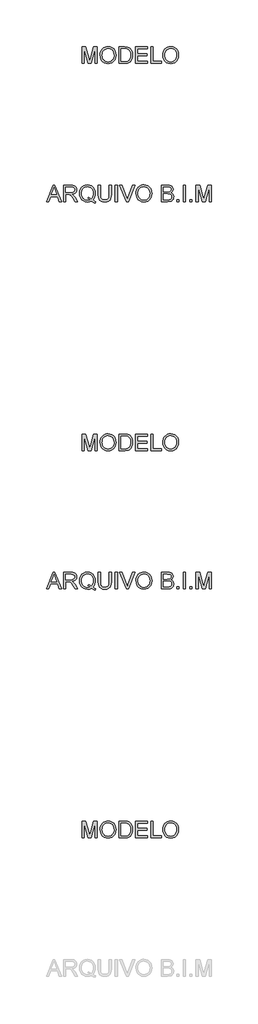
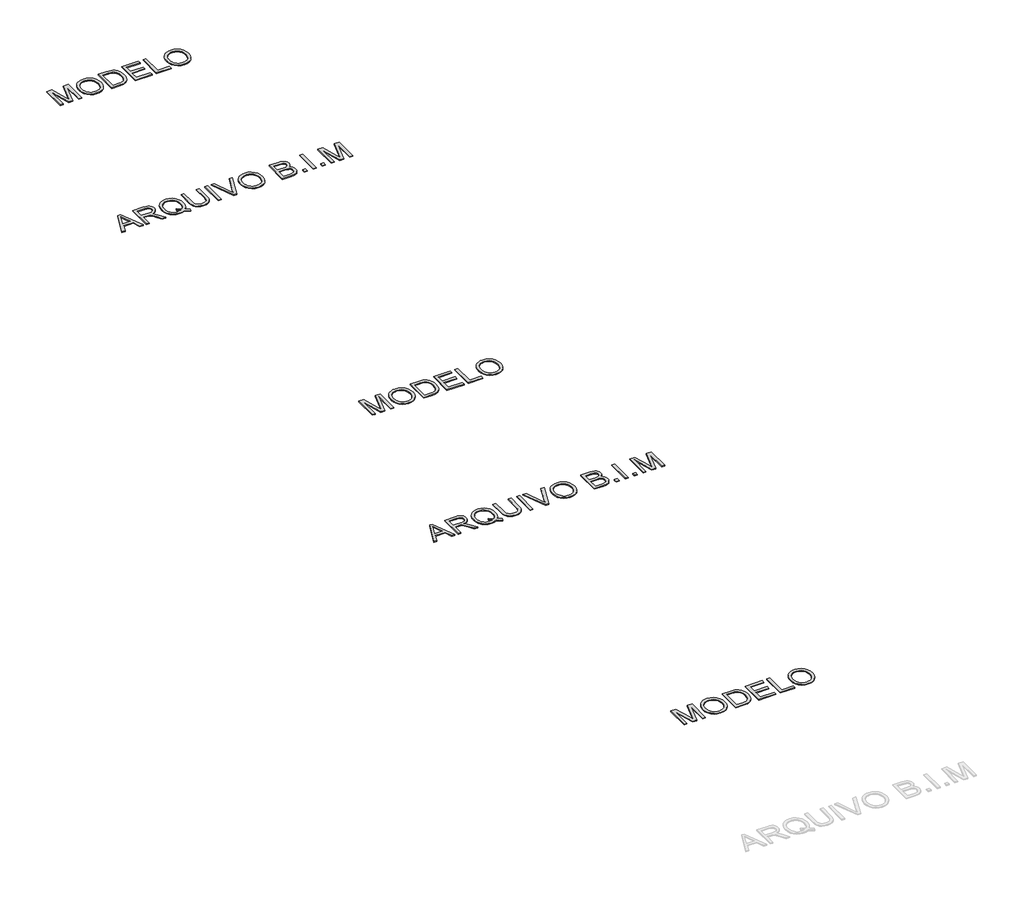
# One storey, part 3 of 8: 5 proxies.
"""IFC4 building model written with IfcOpenShell, lengths in millimetres."""

from ifc_helpers import new_model, si_unit, origin, origin_with_axes, place, context, project, spatial, polyline, outline, extrude, element, save

model = new_model("IFC4")

# Units and contexts
model_context = context("Model", 3, world=origin())
ifc_project = project(units=[si_unit("LENGTHUNIT", "METRE", prefix="MILLI")], contexts=[model_context])

# Site, building, storey
site = spatial("IfcSite", under=ifc_project)
building = spatial("IfcBuilding", under=site)
storey = spatial("IfcBuildingStorey", under=building, Name="Marelli - Linha HABITAT - Planta Baixa", Elevation=0.0)

# Proxies
placement = place(None, origin())
element("IfcBuildingElementProxy", 1, Name="300mm Arial", ObjectType="300mm Arial", at=placement, inside=storey, context=model_context, shape_type="SweptSolid", body=[
    extrude(outline(polyline([(29390.580402, -52280.5663201), (29510.8778144, -51979.1973896), (29542.9571244, -51979.1973896), (29663.2545368, -52280.5663201), (29623.449705, -52280.5663201), (29588.9423738, -52186.3885293), (29464.8189886, -52186.3885293), (29430.3852339, -52280.5663201), (29390.580402, -52280.5663201)]), holes=[polyline([(29478.6513517, -52148.717413), (29575.1835872, -52148.717413), (29548.0338959, -52074.6259792), (29526.9174694, -52016.8685059), (29508.1554877, -52068.1512561), (29478.6513517, -52148.717413)])]), origin_with_axes(), (0.0, 0.0, 1.0), 10.0),
    extrude(outline(polyline([(29703.5008271, -52280.5663201), (29703.5008271, -51979.1973896), (29833.3631714, -51979.1973896), (29868.2659757, -51981.2299376), (29893.6590304, -51987.3275817), (29912.2186771, -51998.5847708), (29926.6212572, -52016.0959537), (29935.8642923, -52037.8101885), (29938.945304, -52061.6765329), (29933.8409413, -52091.3646099), (29918.5278533, -52115.9759154), (29906.9280741, -52126.0052983), (29892.5461874, -52134.0205273), (29855.4360911, -52144.0085235), (29876.8468232, -52160.1217548), (29907.3810288, -52198.8965171), (29957.6337094, -52280.5663201), (29913.855752, -52280.5663201), (29874.6395313, -52218.0999573), (29846.3126176, -52176.750021), (29826.4102017, -52157.2154871), (29808.4943485, -52150.0417882), (29786.642158, -52148.717413), (29741.1719434, -52148.717413), (29741.1719434, -52280.5663201), (29703.5008271, -52280.5663201)]), holes=[polyline([(29741.1719434, -52111.0462967), (29825.4904967, -52111.0462967), (29849.706329, -52109.7127245), (29868.4959019, -52105.7120078), (29882.6409647, -52098.7774322), (29892.9232664, -52088.6422832), (29899.1864574, -52076.3826157), (29901.2741877, -52063.0744845), (29897.2918651, -52044.6987789), (29885.3448973, -52029.8915286), (29864.7894908, -52020.1242616), (29834.9818522, -52016.8685059), (29741.1719434, -52016.8685059), (29741.1719434, -52111.0462967)])]), origin_with_axes(), (0.0, 0.0, 1.0), 10.0),
    extrude(outline(polyline([(30231.2643374, -52244.4403081), (30255.5997314, -52263.036743), (30277.9853508, -52275.8574305), (30267.8318077, -52303.4485802), (30236.7641732, -52289.0460001), (30205.8069033, -52268.205485), (30170.9500843, -52281.0077785), (30132.5983863, -52285.2752096), (30094.0627473, -52280.3547879), (30059.2427164, -52265.5935229), (30030.0788713, -52241.9203165), (30008.5117893, -52210.2640708), (29995.185264, -52172.3630282), (29990.7430889, -52129.9554312), (29995.176067, -52087.511046), (30008.4750011, -52049.0581805), (30029.9593096, -52016.9512794), (30058.9484108, -51993.5447874), (30093.639683, -51979.2525719), (30132.2305043, -51974.4885001), (30171.1248282, -51979.3629365), (30205.9908443, -51993.9862458), (30234.9339603, -52017.3835407), (30256.0595839, -52048.5799339), (30268.9722419, -52085.9199564), (30273.2764612, -52127.7481393), (30270.6644991, -52162.5313819), (30262.8286126, -52193.5990164), (30249.7136194, -52220.9142546), (30231.2643374, -52244.4403081)]), holes=[polyline([(30142.9726585, -52194.3347804), (30174.6472983, -52206.3093393), (30200.215097, -52222.9559996), (30215.6983305, -52205.4816049), (30226.7577829, -52184.1076609), (30233.3934544, -52158.8341679), (30235.6053449, -52129.6611256), (30232.478348, -52096.5057608), (30223.0973571, -52067.8201623), (30207.6922985, -52044.3308969), (30186.4930986, -52026.7645316), (30160.934497, -52015.8108452), (30132.4512335, -52012.1596164), (30110.966925, -52014.0059242), (30091.3956028, -52019.5448474), (30073.7372671, -52028.7763863), (30057.9919177, -52041.7005406), (30045.0516685, -52058.2897193), (30035.8086334, -52078.5163313), (30030.2628123, -52102.3803764), (30028.4142053, -52129.8818548), (30030.2421189, -52156.6659634), (30035.7258599, -52180.1437324), (30044.8654282, -52200.3151621), (30057.6608239, -52217.1802523), (30073.2981079, -52230.4906827), (30090.9633415, -52239.9981331), (30110.6565245, -52245.7026032), (30132.3776571, -52247.6040933), (30153.2917485, -52245.6727128), (30172.918253, -52239.8785714), (30153.6228423, -52229.853787), (30133.2605739, -52223.1767288), (30142.9726585, -52194.3347804)])]), origin_with_axes(), (0.0, 0.0, 1.0), 10.0),
    extrude(outline(polyline([(30527.5564963, -51979.1973896), (30565.2276126, -51979.1973896), (30565.2276126, -52153.0584205), (30562.6708327, -52193.7737604), (30555.0004931, -52225.1265034), (30540.6714894, -52249.3147446), (30518.1387172, -52268.5365788), (30487.3469942, -52281.0905519), (30448.2411381, -52285.2752096), (30409.9906077, -52281.6331779), (30379.4104168, -52270.7070826), (30356.4913685, -52252.8740029), (30341.2242657, -52228.5110178), (30332.6434182, -52195.8338995), (30329.7831357, -52153.0584205), (30329.7831357, -51979.1973896), (30367.454252, -51979.1973896), (30367.454252, -52151.7340454), (30369.3120561, -52185.588386), (30374.8854683, -52209.1604248), (30384.9838291, -52225.4851883), (30400.4164788, -52237.597703), (30420.5396239, -52245.1024957), (30444.709471, -52247.6040933), (30483.0243808, -52242.6560805), (30497.3671801, -52236.4710644), (30508.500209, -52227.812042), (30516.8373347, -52215.6351479), (30522.7924245, -52198.8965171), (30527.5564963, -52151.7340454), (30527.5564963, -51979.1973896)])), origin_with_axes(), (0.0, 0.0, 1.0), 10.0),
    extrude(outline(polyline([(30635.8609557, -52280.5663201), (30635.8609557, -51979.1973896), (30673.532072, -51979.1973896), (30673.532072, -52280.5663201), (30635.8609557, -52280.5663201)])), origin_with_axes(), (0.0, 0.0, 1.0), 10.0),
    extrude(outline(polyline([(30837.9017474, -52280.5663201), (30717.972217, -51979.1973896), (30758.2920837, -51979.1973896), (30838.563935, -52196.3213432), (30854.8243192, -52245.2496485), (30870.8639742, -52196.3213432), (30951.3565547, -51979.1973896), (30991.6764214, -51979.1973896), (30876.8236625, -52280.5663201), (30837.9017474, -52280.5663201)])), origin_with_axes(), (0.0, 0.0, 1.0), 10.0),
    extrude(outline(polyline([(31012.5721187, -52133.8549804), (31015.0829134, -52098.5061192), (31022.6152972, -52067.213157), (31035.1692703, -52039.9760937), (31052.7448326, -52016.7949295), (31074.288922, -51998.2858666), (31098.7484761, -51985.0651074), (31126.1234951, -51977.1326519), (31156.4139789, -51974.4885001), (31195.9428992, -51979.454907), (31231.3883295, -51994.3541278), (31260.8188891, -52018.1376988), (31282.3031976, -52049.7571563), (31295.4365848, -52087.68579), (31299.8143806, -52130.3968896), (31295.2066586, -52173.6782064), (31281.3834926, -52212.140269), (31259.1082378, -52243.8149088), (31229.1442493, -52266.733957), (31194.0023217, -52280.6398965), (31156.1932497, -52285.2752096), (31116.057324, -52280.1524528), (31080.4095587, -52264.7841825), (31051.0525754, -52240.5591531), (31029.7889961, -52208.8661192), (31016.8763381, -52172.3998164), (31012.5721187, -52133.8549804)]), holes=[polyline([(31050.2432351, -52134.2228624), (31052.126331, -52159.1974513), (31057.7756189, -52181.3669401), (31067.1910987, -52200.7313286), (31080.3727705, -52217.2906169), (31096.3963306, -52230.5527628), (31114.3374757, -52240.0257242), (31134.1962056, -52245.709501), (31155.9725205, -52247.6040933), (31178.1213158, -52245.6911069), (31198.2145706, -52239.9521478), (31216.2522846, -52230.3872159), (31232.2344581, -52216.9963113), (31245.3195608, -52200.0875351), (31254.6660627, -52179.9689885), (31260.2739639, -52156.6406715), (31262.1432643, -52130.102584), (31258.9426909, -52096.7540812), (31249.3409708, -52067.9305269), (31233.5864244, -52044.358488), (31211.9273719, -52026.7645316), (31185.7985532, -52015.8108452), (31156.6347081, -52012.1596164), (31135.6148506, -52013.9185522), (31116.1125063, -52019.1953595), (31098.1276753, -52027.9900385), (31081.6603574, -52040.302589), (31067.9153664, -52056.7262208), (31058.0975157, -52077.8541437), (31052.2068052, -52103.6863575), (31050.2432351, -52134.2228624)])]), origin_with_axes(), (0.0, 0.0, 1.0), 10.0),
    extrude(outline(polyline([(31469.334404, -52280.5663201), (31469.334404, -51979.1973896), (31584.3343157, -51979.1973896), (31615.9629702, -51981.4138786), (31640.6570491, -51988.0633457), (31659.5845778, -51999.3113377), (31673.9135815, -52015.3234015), (31682.9358874, -52034.1589597), (31685.9433227, -52053.8774346), (31683.414134, -52072.0232141), (31675.8265679, -52089.0837416), (31663.125442, -52104.0105535), (31645.2555741, -52115.7551862), (31666.6019268, -52126.9020107), (31682.3748674, -52143.8613707), (31692.1145432, -52165.5112261), (31695.3611018, -52190.7295368), (31693.1446128, -52211.7447958), (31686.4951457, -52231.2333445), (31676.5715289, -52247.8064284), (31664.5325906, -52260.0752929), (31649.7897196, -52268.9596431), (31631.7543048, -52275.3791839), (31583.4513989, -52280.5663201), (31469.334404, -52280.5663201)]), holes=[polyline([(31507.0055203, -52101.6285176), (31575.7994534, -52101.6285176), (31615.9721672, -52098.3911561), (31630.0344565, -52092.8085468), (31640.1420143, -52084.4484284), (31646.2396584, -52073.4395597), (31648.2722064, -52059.9106994), (31646.3776141, -52046.7773121), (31640.6938373, -52035.3361821), (31631.4783933, -52026.4058467), (31618.9887996, -52020.8048433), (31570.575529, -52016.8685059), (31507.0055203, -52016.8685059), (31507.0055203, -52101.6285176)]), polyline([(31507.0055203, -52242.8952038), (31584.2607393, -52242.8952038), (31612.2197709, -52241.4236758), (31635.8745832, -52233.2199073), (31651.5463562, -52216.4812765), (31656.1540782, -52204.6538704), (31657.6899855, -52191.0974188), (31655.8873637, -52175.3520694), (31650.4794984, -52161.814012), (31641.0341282, -52151.2282076), (31627.1189917, -52144.3396173), (31607.4097138, -52140.5596298), (31580.5819193, -52139.2996339), (31507.0055203, -52139.2996339), (31507.0055203, -52242.8952038)])]), origin_with_axes(), (0.0, 0.0, 1.0), 10.0),
    extrude(outline(polyline([(31751.8677763, -52280.5663201), (31751.8677763, -52242.8952038), (31789.5388926, -52242.8952038), (31789.5388926, -52280.5663201), (31751.8677763, -52280.5663201)])), origin_with_axes(), (0.0, 0.0, 1.0), 10.0),
    extrude(outline(polyline([(31869.5900147, -52280.5663201), (31869.5900147, -51979.1973896), (31907.261131, -51979.1973896), (31907.261131, -52280.5663201), (31869.5900147, -52280.5663201)])), origin_with_axes(), (0.0, 0.0, 1.0), 10.0),
    extrude(outline(polyline([(31987.3122532, -52280.5663201), (31987.3122532, -52242.8952038), (32024.9833695, -52242.8952038), (32024.9833695, -52280.5663201), (31987.3122532, -52280.5663201)])), origin_with_axes(), (0.0, 0.0, 1.0), 10.0),
    extrude(outline(polyline([(32100.3256021, -52280.5663201), (32100.3256021, -51979.1973896), (32165.1464096, -51979.1973896), (32226.803432, -52191.6124536), (32239.2378435, -52235.9790223), (32252.7023245, -52187.9336337), (32313.3292773, -51979.1973896), (32378.1500848, -51979.1973896), (32378.1500848, -52280.5663201), (32340.4789685, -52280.5663201), (32340.4789685, -52016.8685059), (32264.7688539, -52280.5663201), (32213.706833, -52280.5663201), (32137.9967184, -52016.8685059), (32137.9967184, -52280.5663201), (32100.3256021, -52280.5663201)])), origin_with_axes(), (0.0, 0.0, 1.0), 10.0),
])
element("IfcBuildingElementProxy", 2, Name="300mm Arial", ObjectType="300mm Arial", at=placement, inside=storey, context=model_context, shape_type="SweptSolid", body=[
    extrude(outline(polyline([(30033.1230948, -49780.5663201), (30033.1230948, -49479.1973896), (30097.9439023, -49479.1973896), (30159.6009247, -49691.6124536), (30172.0353362, -49735.9790223), (30185.4998172, -49687.9336337), (30246.12677, -49479.1973896), (30310.9475775, -49479.1973896), (30310.9475775, -49780.5663201), (30273.2764612, -49780.5663201), (30273.2764612, -49516.8685059), (30197.5663466, -49780.5663201), (30146.5043257, -49780.5663201), (30070.7942111, -49516.8685059), (30070.7942111, -49780.5663201), (30033.1230948, -49780.5663201)])), origin_with_axes(), (0.0, 0.0, 1.0), 10.0),
    extrude(outline(polyline([(30362.7453625, -49633.8549804), (30365.2561571, -49598.5061192), (30372.7885409, -49567.213157), (30385.342514, -49539.9760937), (30402.9180763, -49516.7949295), (30424.4621657, -49498.2858666), (30448.9217198, -49485.0651074), (30476.2967388, -49477.1326519), (30506.5872226, -49474.4885001), (30546.116143, -49479.454907), (30581.5615732, -49494.3541278), (30610.9921328, -49518.1376988), (30632.4764413, -49549.7571563), (30645.6098286, -49587.68579), (30649.9876243, -49630.3968896), (30645.3799023, -49673.6782064), (30631.5567363, -49712.140269), (30609.2814815, -49743.8149088), (30579.317493, -49766.733957), (30544.1755654, -49780.6398965), (30506.3664934, -49785.2752096), (30466.2305677, -49780.1524528), (30430.5828024, -49764.7841825), (30401.2258192, -49740.5591531), (30379.9622398, -49708.8661192), (30367.0495818, -49672.3998164), (30362.7453625, -49633.8549804)]), holes=[polyline([(30400.4164788, -49634.2228624), (30402.2995747, -49659.1974513), (30407.9488626, -49681.3669401), (30417.3643424, -49700.7313286), (30430.5460142, -49717.2906169), (30446.5695743, -49730.5527628), (30464.5107194, -49740.0257242), (30484.3694493, -49745.709501), (30506.1457642, -49747.6040933), (30528.2945596, -49745.6911069), (30548.3878143, -49739.9521478), (30566.4255284, -49730.3872159), (30582.4077018, -49716.9963113), (30595.4928045, -49700.0875351), (30604.8393064, -49679.9689885), (30610.4472076, -49656.6406715), (30612.316508, -49630.102584), (30609.1159346, -49596.7540812), (30599.5142146, -49567.9305269), (30583.7596681, -49544.358488), (30562.1006157, -49526.7645316), (30535.9717969, -49515.8108452), (30506.8079518, -49512.1596164), (30485.7880943, -49513.9185522), (30466.28575, -49519.1953595), (30448.300919, -49527.9900385), (30431.8336012, -49540.302589), (30418.0886101, -49556.7262208), (30408.2707594, -49577.8541437), (30402.3800489, -49603.6863575), (30400.4164788, -49634.2228624)])]), origin_with_axes(), (0.0, 0.0, 1.0), 10.0),
    extrude(outline(polyline([(30701.7854092, -49780.5663201), (30701.7854092, -49479.1973896), (30805.7488611, -49479.1973896), (30859.5332088, -49483.5383972), (30883.555903, -49491.9077126), (30903.826201, -49505.0962821), (30924.666716, -49528.0521186), (30939.5107545, -49556.5997614), (30948.3951047, -49590.1873876), (30951.3565547, -49628.2631741), (30949.3515979, -49660.6091985), (30943.3367273, -49689.0740679), (30934.1764656, -49713.3082943), (30922.7353355, -49732.9623899), (30909.5651601, -49748.477813), (30895.2177623, -49760.2960221), (30878.745846, -49769.0608107), (30859.202115, -49775.4159721), (30810.7520562, -49780.5663201), (30701.7854092, -49780.5663201)]), holes=[polyline([(30739.4565255, -49742.8952038), (30806.1167431, -49742.8952038), (30833.6894986, -49741.5340404), (30854.60359, -49737.4505502), (30870.3857276, -49730.8838566), (30882.5626217, -49722.0730828), (30895.6500236, -49705.7667134), (30905.48167, -49684.6594839), (30911.6344963, -49658.6594239), (30913.6854384, -49627.6745629), (30909.6663276, -49586.6189322), (30897.6089953, -49556.3054558), (30879.7943096, -49535.4833349), (30858.5031392, -49522.9017706), (30836.8348897, -49518.3768221), (30805.0866735, -49516.8685059), (30739.4565255, -49516.8685059), (30739.4565255, -49742.8952038)])]), origin_with_axes(), (0.0, 0.0, 1.0), 10.0),
    extrude(outline(polyline([(31003.1543397, -49780.5663201), (31003.1543397, -49479.1973896), (31219.7632584, -49479.1973896), (31219.7632584, -49516.8685059), (31040.825456, -49516.8685059), (31040.825456, -49606.3374072), (31210.3454794, -49606.3374072), (31210.3454794, -49644.0085235), (31040.825456, -49644.0085235), (31040.825456, -49742.8952038), (31224.472148, -49742.8952038), (31224.472148, -49780.5663201), (31003.1543397, -49780.5663201)])), origin_with_axes(), (0.0, 0.0, 1.0), 10.0),
    extrude(outline(polyline([(31280.9788224, -49780.5663201), (31280.9788224, -49479.1973896), (31318.6499387, -49479.1973896), (31318.6499387, -49742.8952038), (31469.334404, -49742.8952038), (31469.334404, -49780.5663201), (31280.9788224, -49780.5663201)])), origin_with_axes(), (0.0, 0.0, 1.0), 10.0),
    extrude(outline(polyline([(31497.5877412, -49633.8549804), (31500.0985358, -49598.5061192), (31507.6309197, -49567.213157), (31520.1848927, -49539.9760937), (31537.7604551, -49516.7949295), (31559.3045444, -49498.2858666), (31583.7640986, -49485.0651074), (31611.1391175, -49477.1326519), (31641.4296013, -49474.4885001), (31680.9585217, -49479.454907), (31716.4039519, -49494.3541278), (31745.8345115, -49518.1376988), (31767.3188201, -49549.7571563), (31780.4522073, -49587.68579), (31784.830003, -49630.3968896), (31780.222281, -49673.6782064), (31766.3991151, -49712.140269), (31744.1238603, -49743.8149088), (31714.1598717, -49766.733957), (31679.0179442, -49780.6398965), (31641.2088721, -49785.2752096), (31601.0729464, -49780.1524528), (31565.4251811, -49764.7841825), (31536.0681979, -49740.5591531), (31514.8046186, -49708.8661192), (31501.8919605, -49672.3998164), (31497.5877412, -49633.8549804)]), holes=[polyline([(31535.2588575, -49634.2228624), (31537.1419535, -49659.1974513), (31542.7912413, -49681.3669401), (31552.2067212, -49700.7313286), (31565.3883929, -49717.2906169), (31581.4119531, -49730.5527628), (31599.3530981, -49740.0257242), (31619.2118281, -49745.709501), (31640.9881429, -49747.6040933), (31663.1369383, -49745.6911069), (31683.230193, -49739.9521478), (31701.2679071, -49730.3872159), (31717.2500805, -49716.9963113), (31730.3351832, -49700.0875351), (31739.6816852, -49679.9689885), (31745.2895863, -49656.6406715), (31747.1588867, -49630.102584), (31743.9583134, -49596.7540812), (31734.3565933, -49567.9305269), (31718.6020468, -49544.358488), (31696.9429944, -49526.7645316), (31670.8141757, -49515.8108452), (31641.6503305, -49512.1596164), (31620.630473, -49513.9185522), (31601.1281287, -49519.1953595), (31583.1432977, -49527.9900385), (31566.6759799, -49540.302589), (31552.9309888, -49556.7262208), (31543.1131381, -49577.8541437), (31537.2224276, -49603.6863575), (31535.2588575, -49634.2228624)])]), origin_with_axes(), (0.0, 0.0, 1.0), 10.0),
])
element("IfcBuildingElementProxy", 3, Name="300mm Arial", ObjectType="300mm Arial", at=placement, inside=storey, context=model_context, shape_type="SweptSolid", body=[
    extrude(outline(polyline([(29390.580402, -59280.5663201), (29510.8778144, -58979.1973896), (29542.9571244, -58979.1973896), (29663.2545368, -59280.5663201), (29623.449705, -59280.5663201), (29588.9423738, -59186.3885293), (29464.8189886, -59186.3885293), (29430.3852339, -59280.5663201), (29390.580402, -59280.5663201)]), holes=[polyline([(29478.6513517, -59148.717413), (29575.1835872, -59148.717413), (29548.0338959, -59074.6259792), (29526.9174694, -59016.8685059), (29508.1554877, -59068.1512561), (29478.6513517, -59148.717413)])]), origin_with_axes(), (0.0, 0.0, 1.0), 10.0),
    extrude(outline(polyline([(29703.5008271, -59280.5663201), (29703.5008271, -58979.1973896), (29833.3631714, -58979.1973896), (29868.2659757, -58981.2299376), (29893.6590304, -58987.3275817), (29912.2186771, -58998.5847708), (29926.6212572, -59016.0959537), (29935.8642923, -59037.8101885), (29938.945304, -59061.6765329), (29933.8409413, -59091.3646099), (29918.5278533, -59115.9759154), (29906.9280741, -59126.0052983), (29892.5461874, -59134.0205273), (29855.4360911, -59144.0085235), (29876.8468232, -59160.1217548), (29907.3810288, -59198.8965171), (29957.6337094, -59280.5663201), (29913.855752, -59280.5663201), (29874.6395313, -59218.0999573), (29846.3126176, -59176.750021), (29826.4102017, -59157.2154871), (29808.4943485, -59150.0417882), (29786.642158, -59148.717413), (29741.1719434, -59148.717413), (29741.1719434, -59280.5663201), (29703.5008271, -59280.5663201)]), holes=[polyline([(29741.1719434, -59111.0462967), (29825.4904967, -59111.0462967), (29849.706329, -59109.7127245), (29868.4959019, -59105.7120078), (29882.6409647, -59098.7774322), (29892.9232664, -59088.6422832), (29899.1864574, -59076.3826157), (29901.2741877, -59063.0744845), (29897.2918651, -59044.6987789), (29885.3448973, -59029.8915286), (29864.7894908, -59020.1242616), (29834.9818522, -59016.8685059), (29741.1719434, -59016.8685059), (29741.1719434, -59111.0462967)])]), origin_with_axes(), (0.0, 0.0, 1.0), 10.0),
    extrude(outline(polyline([(30231.2643374, -59244.4403081), (30255.5997314, -59263.036743), (30277.9853508, -59275.8574305), (30267.8318077, -59303.4485802), (30236.7641732, -59289.0460001), (30205.8069033, -59268.205485), (30170.9500843, -59281.0077785), (30132.5983863, -59285.2752096), (30094.0627473, -59280.3547879), (30059.2427164, -59265.5935229), (30030.0788713, -59241.9203165), (30008.5117893, -59210.2640708), (29995.185264, -59172.3630282), (29990.7430889, -59129.9554312), (29995.176067, -59087.511046), (30008.4750011, -59049.0581805), (30029.9593096, -59016.9512794), (30058.9484108, -58993.5447874), (30093.639683, -58979.2525719), (30132.2305043, -58974.4885001), (30171.1248282, -58979.3629365), (30205.9908443, -58993.9862458), (30234.9339603, -59017.3835407), (30256.0595839, -59048.5799339), (30268.9722419, -59085.9199564), (30273.2764612, -59127.7481393), (30270.6644991, -59162.5313819), (30262.8286126, -59193.5990164), (30249.7136194, -59220.9142546), (30231.2643374, -59244.4403081)]), holes=[polyline([(30142.9726585, -59194.3347804), (30174.6472983, -59206.3093393), (30200.215097, -59222.9559996), (30215.6983305, -59205.4816049), (30226.7577829, -59184.1076609), (30233.3934544, -59158.8341679), (30235.6053449, -59129.6611256), (30232.478348, -59096.5057608), (30223.0973571, -59067.8201623), (30207.6922985, -59044.3308969), (30186.4930986, -59026.7645316), (30160.934497, -59015.8108452), (30132.4512335, -59012.1596164), (30110.966925, -59014.0059242), (30091.3956028, -59019.5448474), (30073.7372671, -59028.7763863), (30057.9919177, -59041.7005406), (30045.0516685, -59058.2897193), (30035.8086334, -59078.5163313), (30030.2628123, -59102.3803764), (30028.4142053, -59129.8818548), (30030.2421189, -59156.6659634), (30035.7258599, -59180.1437324), (30044.8654282, -59200.3151621), (30057.6608239, -59217.1802523), (30073.2981079, -59230.4906827), (30090.9633415, -59239.9981331), (30110.6565245, -59245.7026032), (30132.3776571, -59247.6040933), (30153.2917485, -59245.6727128), (30172.918253, -59239.8785714), (30153.6228423, -59229.853787), (30133.2605739, -59223.1767288), (30142.9726585, -59194.3347804)])]), origin_with_axes(), (0.0, 0.0, 1.0), 10.0),
    extrude(outline(polyline([(30527.5564963, -58979.1973896), (30565.2276126, -58979.1973896), (30565.2276126, -59153.0584205), (30562.6708327, -59193.7737604), (30555.0004931, -59225.1265034), (30540.6714894, -59249.3147446), (30518.1387172, -59268.5365788), (30487.3469942, -59281.0905519), (30448.2411381, -59285.2752096), (30409.9906077, -59281.6331779), (30379.4104168, -59270.7070826), (30356.4913685, -59252.8740029), (30341.2242657, -59228.5110178), (30332.6434182, -59195.8338995), (30329.7831357, -59153.0584205), (30329.7831357, -58979.1973896), (30367.454252, -58979.1973896), (30367.454252, -59151.7340454), (30369.3120561, -59185.588386), (30374.8854683, -59209.1604248), (30384.9838291, -59225.4851883), (30400.4164788, -59237.597703), (30420.5396239, -59245.1024957), (30444.709471, -59247.6040933), (30483.0243808, -59242.6560805), (30497.3671801, -59236.4710644), (30508.500209, -59227.812042), (30516.8373347, -59215.6351479), (30522.7924245, -59198.8965171), (30527.5564963, -59151.7340454), (30527.5564963, -58979.1973896)])), origin_with_axes(), (0.0, 0.0, 1.0), 10.0),
    extrude(outline(polyline([(30635.8609557, -59280.5663201), (30635.8609557, -58979.1973896), (30673.532072, -58979.1973896), (30673.532072, -59280.5663201), (30635.8609557, -59280.5663201)])), origin_with_axes(), (0.0, 0.0, 1.0), 10.0),
    extrude(outline(polyline([(30837.9017474, -59280.5663201), (30717.972217, -58979.1973896), (30758.2920837, -58979.1973896), (30838.563935, -59196.3213432), (30854.8243192, -59245.2496485), (30870.8639742, -59196.3213432), (30951.3565547, -58979.1973896), (30991.6764214, -58979.1973896), (30876.8236625, -59280.5663201), (30837.9017474, -59280.5663201)])), origin_with_axes(), (0.0, 0.0, 1.0), 10.0),
    extrude(outline(polyline([(31012.5721187, -59133.8549804), (31015.0829134, -59098.5061192), (31022.6152972, -59067.213157), (31035.1692703, -59039.9760937), (31052.7448326, -59016.7949295), (31074.288922, -58998.2858666), (31098.7484761, -58985.0651074), (31126.1234951, -58977.1326519), (31156.4139789, -58974.4885001), (31195.9428992, -58979.454907), (31231.3883295, -58994.3541278), (31260.8188891, -59018.1376988), (31282.3031976, -59049.7571563), (31295.4365848, -59087.68579), (31299.8143806, -59130.3968896), (31295.2066586, -59173.6782064), (31281.3834926, -59212.140269), (31259.1082378, -59243.8149088), (31229.1442493, -59266.733957), (31194.0023217, -59280.6398965), (31156.1932497, -59285.2752096), (31116.057324, -59280.1524528), (31080.4095587, -59264.7841825), (31051.0525754, -59240.5591531), (31029.7889961, -59208.8661192), (31016.8763381, -59172.3998164), (31012.5721187, -59133.8549804)]), holes=[polyline([(31050.2432351, -59134.2228624), (31052.126331, -59159.1974513), (31057.7756189, -59181.3669401), (31067.1910987, -59200.7313286), (31080.3727705, -59217.2906169), (31096.3963306, -59230.5527628), (31114.3374757, -59240.0257242), (31134.1962056, -59245.709501), (31155.9725205, -59247.6040933), (31178.1213158, -59245.6911069), (31198.2145706, -59239.9521478), (31216.2522846, -59230.3872159), (31232.2344581, -59216.9963113), (31245.3195608, -59200.0875351), (31254.6660627, -59179.9689885), (31260.2739639, -59156.6406715), (31262.1432643, -59130.102584), (31258.9426909, -59096.7540812), (31249.3409708, -59067.9305269), (31233.5864244, -59044.358488), (31211.9273719, -59026.7645316), (31185.7985532, -59015.8108452), (31156.6347081, -59012.1596164), (31135.6148506, -59013.9185522), (31116.1125063, -59019.1953595), (31098.1276753, -59027.9900385), (31081.6603574, -59040.302589), (31067.9153664, -59056.7262208), (31058.0975157, -59077.8541437), (31052.2068052, -59103.6863575), (31050.2432351, -59134.2228624)])]), origin_with_axes(), (0.0, 0.0, 1.0), 10.0),
    extrude(outline(polyline([(31469.334404, -59280.5663201), (31469.334404, -58979.1973896), (31584.3343157, -58979.1973896), (31615.9629702, -58981.4138786), (31640.6570491, -58988.0633457), (31659.5845778, -58999.3113377), (31673.9135815, -59015.3234015), (31682.9358874, -59034.1589597), (31685.9433227, -59053.8774346), (31683.414134, -59072.0232141), (31675.8265679, -59089.0837416), (31663.125442, -59104.0105535), (31645.2555741, -59115.7551862), (31666.6019268, -59126.9020107), (31682.3748674, -59143.8613707), (31692.1145432, -59165.5112261), (31695.3611018, -59190.7295368), (31693.1446128, -59211.7447958), (31686.4951457, -59231.2333445), (31676.5715289, -59247.8064284), (31664.5325906, -59260.0752929), (31649.7897196, -59268.9596431), (31631.7543048, -59275.3791839), (31583.4513989, -59280.5663201), (31469.334404, -59280.5663201)]), holes=[polyline([(31507.0055203, -59101.6285176), (31575.7994534, -59101.6285176), (31615.9721672, -59098.3911561), (31630.0344565, -59092.8085468), (31640.1420143, -59084.4484284), (31646.2396584, -59073.4395597), (31648.2722064, -59059.9106994), (31646.3776141, -59046.7773121), (31640.6938373, -59035.3361821), (31631.4783933, -59026.4058467), (31618.9887996, -59020.8048433), (31570.575529, -59016.8685059), (31507.0055203, -59016.8685059), (31507.0055203, -59101.6285176)]), polyline([(31507.0055203, -59242.8952038), (31584.2607393, -59242.8952038), (31612.2197709, -59241.4236758), (31635.8745832, -59233.2199073), (31651.5463562, -59216.4812765), (31656.1540782, -59204.6538704), (31657.6899855, -59191.0974188), (31655.8873637, -59175.3520694), (31650.4794984, -59161.814012), (31641.0341282, -59151.2282076), (31627.1189917, -59144.3396173), (31607.4097138, -59140.5596298), (31580.5819193, -59139.2996339), (31507.0055203, -59139.2996339), (31507.0055203, -59242.8952038)])]), origin_with_axes(), (0.0, 0.0, 1.0), 10.0),
    extrude(outline(polyline([(31751.8677763, -59280.5663201), (31751.8677763, -59242.8952038), (31789.5388926, -59242.8952038), (31789.5388926, -59280.5663201), (31751.8677763, -59280.5663201)])), origin_with_axes(), (0.0, 0.0, 1.0), 10.0),
    extrude(outline(polyline([(31869.5900147, -59280.5663201), (31869.5900147, -58979.1973896), (31907.261131, -58979.1973896), (31907.261131, -59280.5663201), (31869.5900147, -59280.5663201)])), origin_with_axes(), (0.0, 0.0, 1.0), 10.0),
    extrude(outline(polyline([(31987.3122532, -59280.5663201), (31987.3122532, -59242.8952038), (32024.9833695, -59242.8952038), (32024.9833695, -59280.5663201), (31987.3122532, -59280.5663201)])), origin_with_axes(), (0.0, 0.0, 1.0), 10.0),
    extrude(outline(polyline([(32100.3256021, -59280.5663201), (32100.3256021, -58979.1973896), (32165.1464096, -58979.1973896), (32226.803432, -59191.6124536), (32239.2378435, -59235.9790223), (32252.7023245, -59187.9336337), (32313.3292773, -58979.1973896), (32378.1500848, -58979.1973896), (32378.1500848, -59280.5663201), (32340.4789685, -59280.5663201), (32340.4789685, -59016.8685059), (32264.7688539, -59280.5663201), (32213.706833, -59280.5663201), (32137.9967184, -59016.8685059), (32137.9967184, -59280.5663201), (32100.3256021, -59280.5663201)])), origin_with_axes(), (0.0, 0.0, 1.0), 10.0),
])
element("IfcBuildingElementProxy", 4, Name="300mm Arial", ObjectType="300mm Arial", at=placement, inside=storey, context=model_context, shape_type="SweptSolid", body=[
    extrude(outline(polyline([(30033.1230948, -56780.5663201), (30033.1230948, -56479.1973896), (30097.9439023, -56479.1973896), (30159.6009247, -56691.6124536), (30172.0353362, -56735.9790223), (30185.4998172, -56687.9336337), (30246.12677, -56479.1973896), (30310.9475775, -56479.1973896), (30310.9475775, -56780.5663201), (30273.2764612, -56780.5663201), (30273.2764612, -56516.8685059), (30197.5663466, -56780.5663201), (30146.5043257, -56780.5663201), (30070.7942111, -56516.8685059), (30070.7942111, -56780.5663201), (30033.1230948, -56780.5663201)])), origin_with_axes(), (0.0, 0.0, 1.0), 10.0),
    extrude(outline(polyline([(30362.7453625, -56633.8549804), (30365.2561571, -56598.5061192), (30372.7885409, -56567.213157), (30385.342514, -56539.9760937), (30402.9180763, -56516.7949295), (30424.4621657, -56498.2858666), (30448.9217198, -56485.0651074), (30476.2967388, -56477.1326519), (30506.5872226, -56474.4885001), (30546.116143, -56479.454907), (30581.5615732, -56494.3541278), (30610.9921328, -56518.1376988), (30632.4764413, -56549.7571563), (30645.6098286, -56587.68579), (30649.9876243, -56630.3968896), (30645.3799023, -56673.6782064), (30631.5567363, -56712.140269), (30609.2814815, -56743.8149088), (30579.317493, -56766.733957), (30544.1755654, -56780.6398965), (30506.3664934, -56785.2752096), (30466.2305677, -56780.1524528), (30430.5828024, -56764.7841825), (30401.2258192, -56740.5591531), (30379.9622398, -56708.8661192), (30367.0495818, -56672.3998164), (30362.7453625, -56633.8549804)]), holes=[polyline([(30400.4164788, -56634.2228624), (30402.2995747, -56659.1974513), (30407.9488626, -56681.3669401), (30417.3643424, -56700.7313286), (30430.5460142, -56717.2906169), (30446.5695743, -56730.5527628), (30464.5107194, -56740.0257242), (30484.3694493, -56745.709501), (30506.1457642, -56747.6040933), (30528.2945596, -56745.6911069), (30548.3878143, -56739.9521478), (30566.4255284, -56730.3872159), (30582.4077018, -56716.9963113), (30595.4928045, -56700.0875351), (30604.8393064, -56679.9689885), (30610.4472076, -56656.6406715), (30612.316508, -56630.102584), (30609.1159346, -56596.7540812), (30599.5142146, -56567.9305269), (30583.7596681, -56544.358488), (30562.1006157, -56526.7645316), (30535.9717969, -56515.8108452), (30506.8079518, -56512.1596164), (30485.7880943, -56513.9185522), (30466.28575, -56519.1953595), (30448.300919, -56527.9900385), (30431.8336012, -56540.302589), (30418.0886101, -56556.7262208), (30408.2707594, -56577.8541437), (30402.3800489, -56603.6863575), (30400.4164788, -56634.2228624)])]), origin_with_axes(), (0.0, 0.0, 1.0), 10.0),
    extrude(outline(polyline([(30701.7854092, -56780.5663201), (30701.7854092, -56479.1973896), (30805.7488611, -56479.1973896), (30859.5332088, -56483.5383972), (30883.555903, -56491.9077126), (30903.826201, -56505.0962821), (30924.666716, -56528.0521186), (30939.5107545, -56556.5997614), (30948.3951047, -56590.1873876), (30951.3565547, -56628.2631741), (30949.3515979, -56660.6091985), (30943.3367273, -56689.0740679), (30934.1764656, -56713.3082943), (30922.7353355, -56732.9623899), (30909.5651601, -56748.477813), (30895.2177623, -56760.2960221), (30878.745846, -56769.0608107), (30859.202115, -56775.4159721), (30810.7520562, -56780.5663201), (30701.7854092, -56780.5663201)]), holes=[polyline([(30739.4565255, -56742.8952038), (30806.1167431, -56742.8952038), (30833.6894986, -56741.5340404), (30854.60359, -56737.4505502), (30870.3857276, -56730.8838566), (30882.5626217, -56722.0730828), (30895.6500236, -56705.7667134), (30905.48167, -56684.6594839), (30911.6344963, -56658.6594239), (30913.6854384, -56627.6745629), (30909.6663276, -56586.6189322), (30897.6089953, -56556.3054558), (30879.7943096, -56535.4833349), (30858.5031392, -56522.9017706), (30836.8348897, -56518.3768221), (30805.0866735, -56516.8685059), (30739.4565255, -56516.8685059), (30739.4565255, -56742.8952038)])]), origin_with_axes(), (0.0, 0.0, 1.0), 10.0),
    extrude(outline(polyline([(31003.1543397, -56780.5663201), (31003.1543397, -56479.1973896), (31219.7632584, -56479.1973896), (31219.7632584, -56516.8685059), (31040.825456, -56516.8685059), (31040.825456, -56606.3374072), (31210.3454794, -56606.3374072), (31210.3454794, -56644.0085235), (31040.825456, -56644.0085235), (31040.825456, -56742.8952038), (31224.472148, -56742.8952038), (31224.472148, -56780.5663201), (31003.1543397, -56780.5663201)])), origin_with_axes(), (0.0, 0.0, 1.0), 10.0),
    extrude(outline(polyline([(31280.9788224, -56780.5663201), (31280.9788224, -56479.1973896), (31318.6499387, -56479.1973896), (31318.6499387, -56742.8952038), (31469.334404, -56742.8952038), (31469.334404, -56780.5663201), (31280.9788224, -56780.5663201)])), origin_with_axes(), (0.0, 0.0, 1.0), 10.0),
    extrude(outline(polyline([(31497.5877412, -56633.8549804), (31500.0985358, -56598.5061192), (31507.6309197, -56567.213157), (31520.1848927, -56539.9760937), (31537.7604551, -56516.7949295), (31559.3045444, -56498.2858666), (31583.7640986, -56485.0651074), (31611.1391175, -56477.1326519), (31641.4296013, -56474.4885001), (31680.9585217, -56479.454907), (31716.4039519, -56494.3541278), (31745.8345115, -56518.1376988), (31767.3188201, -56549.7571563), (31780.4522073, -56587.68579), (31784.830003, -56630.3968896), (31780.222281, -56673.6782064), (31766.3991151, -56712.140269), (31744.1238603, -56743.8149088), (31714.1598717, -56766.733957), (31679.0179442, -56780.6398965), (31641.2088721, -56785.2752096), (31601.0729464, -56780.1524528), (31565.4251811, -56764.7841825), (31536.0681979, -56740.5591531), (31514.8046186, -56708.8661192), (31501.8919605, -56672.3998164), (31497.5877412, -56633.8549804)]), holes=[polyline([(31535.2588575, -56634.2228624), (31537.1419535, -56659.1974513), (31542.7912413, -56681.3669401), (31552.2067212, -56700.7313286), (31565.3883929, -56717.2906169), (31581.4119531, -56730.5527628), (31599.3530981, -56740.0257242), (31619.2118281, -56745.709501), (31640.9881429, -56747.6040933), (31663.1369383, -56745.6911069), (31683.230193, -56739.9521478), (31701.2679071, -56730.3872159), (31717.2500805, -56716.9963113), (31730.3351832, -56700.0875351), (31739.6816852, -56679.9689885), (31745.2895863, -56656.6406715), (31747.1588867, -56630.102584), (31743.9583134, -56596.7540812), (31734.3565933, -56567.9305269), (31718.6020468, -56544.358488), (31696.9429944, -56526.7645316), (31670.8141757, -56515.8108452), (31641.6503305, -56512.1596164), (31620.630473, -56513.9185522), (31601.1281287, -56519.1953595), (31583.1432977, -56527.9900385), (31566.6759799, -56540.302589), (31552.9309888, -56556.7262208), (31543.1131381, -56577.8541437), (31537.2224276, -56603.6863575), (31535.2588575, -56634.2228624)])]), origin_with_axes(), (0.0, 0.0, 1.0), 10.0),
])
element("IfcBuildingElementProxy", 5, Name="300mm Arial", ObjectType="300mm Arial", at=placement, inside=storey, context=model_context, shape_type="SweptSolid", body=[
    extrude(outline(polyline([(30033.1230948, -63780.5663201), (30033.1230948, -63479.1973896), (30097.9439023, -63479.1973896), (30159.6009247, -63691.6124536), (30172.0353362, -63735.9790223), (30185.4998172, -63687.9336337), (30246.12677, -63479.1973896), (30310.9475775, -63479.1973896), (30310.9475775, -63780.5663201), (30273.2764612, -63780.5663201), (30273.2764612, -63516.8685059), (30197.5663466, -63780.5663201), (30146.5043257, -63780.5663201), (30070.7942111, -63516.8685059), (30070.7942111, -63780.5663201), (30033.1230948, -63780.5663201)])), origin_with_axes(), (0.0, 0.0, 1.0), 10.0),
    extrude(outline(polyline([(30362.7453625, -63633.8549804), (30365.2561571, -63598.5061192), (30372.7885409, -63567.213157), (30385.342514, -63539.9760937), (30402.9180763, -63516.7949295), (30424.4621657, -63498.2858666), (30448.9217198, -63485.0651074), (30476.2967388, -63477.1326519), (30506.5872226, -63474.4885001), (30546.116143, -63479.454907), (30581.5615732, -63494.3541278), (30610.9921328, -63518.1376988), (30632.4764413, -63549.7571563), (30645.6098286, -63587.68579), (30649.9876243, -63630.3968896), (30645.3799023, -63673.6782064), (30631.5567363, -63712.140269), (30609.2814815, -63743.8149088), (30579.317493, -63766.733957), (30544.1755654, -63780.6398965), (30506.3664934, -63785.2752096), (30466.2305677, -63780.1524528), (30430.5828024, -63764.7841825), (30401.2258192, -63740.5591531), (30379.9622398, -63708.8661192), (30367.0495818, -63672.3998164), (30362.7453625, -63633.8549804)]), holes=[polyline([(30400.4164788, -63634.2228624), (30402.2995747, -63659.1974513), (30407.9488626, -63681.3669401), (30417.3643424, -63700.7313286), (30430.5460142, -63717.2906169), (30446.5695743, -63730.5527628), (30464.5107194, -63740.0257242), (30484.3694493, -63745.709501), (30506.1457642, -63747.6040933), (30528.2945596, -63745.6911069), (30548.3878143, -63739.9521478), (30566.4255284, -63730.3872159), (30582.4077018, -63716.9963113), (30595.4928045, -63700.0875351), (30604.8393064, -63679.9689885), (30610.4472076, -63656.6406715), (30612.316508, -63630.102584), (30609.1159346, -63596.7540812), (30599.5142146, -63567.9305269), (30583.7596681, -63544.358488), (30562.1006157, -63526.7645316), (30535.9717969, -63515.8108452), (30506.8079518, -63512.1596164), (30485.7880943, -63513.9185522), (30466.28575, -63519.1953595), (30448.300919, -63527.9900385), (30431.8336012, -63540.302589), (30418.0886101, -63556.7262208), (30408.2707594, -63577.8541437), (30402.3800489, -63603.6863575), (30400.4164788, -63634.2228624)])]), origin_with_axes(), (0.0, 0.0, 1.0), 10.0),
    extrude(outline(polyline([(30701.7854092, -63780.5663201), (30701.7854092, -63479.1973896), (30805.7488611, -63479.1973896), (30859.5332088, -63483.5383972), (30883.555903, -63491.9077126), (30903.826201, -63505.0962821), (30924.666716, -63528.0521186), (30939.5107545, -63556.5997614), (30948.3951047, -63590.1873876), (30951.3565547, -63628.2631741), (30949.3515979, -63660.6091985), (30943.3367273, -63689.0740679), (30934.1764656, -63713.3082943), (30922.7353355, -63732.9623899), (30909.5651601, -63748.477813), (30895.2177623, -63760.2960221), (30878.745846, -63769.0608107), (30859.202115, -63775.4159721), (30810.7520562, -63780.5663201), (30701.7854092, -63780.5663201)]), holes=[polyline([(30739.4565255, -63742.8952038), (30806.1167431, -63742.8952038), (30833.6894986, -63741.5340404), (30854.60359, -63737.4505502), (30870.3857276, -63730.8838566), (30882.5626217, -63722.0730828), (30895.6500236, -63705.7667134), (30905.48167, -63684.6594839), (30911.6344963, -63658.6594239), (30913.6854384, -63627.6745629), (30909.6663276, -63586.6189322), (30897.6089953, -63556.3054558), (30879.7943096, -63535.4833349), (30858.5031392, -63522.9017706), (30836.8348897, -63518.3768221), (30805.0866735, -63516.8685059), (30739.4565255, -63516.8685059), (30739.4565255, -63742.8952038)])]), origin_with_axes(), (0.0, 0.0, 1.0), 10.0),
    extrude(outline(polyline([(31003.1543397, -63780.5663201), (31003.1543397, -63479.1973896), (31219.7632584, -63479.1973896), (31219.7632584, -63516.8685059), (31040.825456, -63516.8685059), (31040.825456, -63606.3374072), (31210.3454794, -63606.3374072), (31210.3454794, -63644.0085235), (31040.825456, -63644.0085235), (31040.825456, -63742.8952038), (31224.472148, -63742.8952038), (31224.472148, -63780.5663201), (31003.1543397, -63780.5663201)])), origin_with_axes(), (0.0, 0.0, 1.0), 10.0),
    extrude(outline(polyline([(31280.9788224, -63780.5663201), (31280.9788224, -63479.1973896), (31318.6499387, -63479.1973896), (31318.6499387, -63742.8952038), (31469.334404, -63742.8952038), (31469.334404, -63780.5663201), (31280.9788224, -63780.5663201)])), origin_with_axes(), (0.0, 0.0, 1.0), 10.0),
    extrude(outline(polyline([(31497.5877412, -63633.8549804), (31500.0985358, -63598.5061192), (31507.6309197, -63567.213157), (31520.1848927, -63539.9760937), (31537.7604551, -63516.7949295), (31559.3045444, -63498.2858666), (31583.7640986, -63485.0651074), (31611.1391175, -63477.1326519), (31641.4296013, -63474.4885001), (31680.9585217, -63479.454907), (31716.4039519, -63494.3541278), (31745.8345115, -63518.1376988), (31767.3188201, -63549.7571563), (31780.4522073, -63587.68579), (31784.830003, -63630.3968896), (31780.222281, -63673.6782064), (31766.3991151, -63712.140269), (31744.1238603, -63743.8149088), (31714.1598717, -63766.733957), (31679.0179442, -63780.6398965), (31641.2088721, -63785.2752096), (31601.0729464, -63780.1524528), (31565.4251811, -63764.7841825), (31536.0681979, -63740.5591531), (31514.8046186, -63708.8661192), (31501.8919605, -63672.3998164), (31497.5877412, -63633.8549804)]), holes=[polyline([(31535.2588575, -63634.2228624), (31537.1419535, -63659.1974513), (31542.7912413, -63681.3669401), (31552.2067212, -63700.7313286), (31565.3883929, -63717.2906169), (31581.4119531, -63730.5527628), (31599.3530981, -63740.0257242), (31619.2118281, -63745.709501), (31640.9881429, -63747.6040933), (31663.1369383, -63745.6911069), (31683.230193, -63739.9521478), (31701.2679071, -63730.3872159), (31717.2500805, -63716.9963113), (31730.3351832, -63700.0875351), (31739.6816852, -63679.9689885), (31745.2895863, -63656.6406715), (31747.1588867, -63630.102584), (31743.9583134, -63596.7540812), (31734.3565933, -63567.9305269), (31718.6020468, -63544.358488), (31696.9429944, -63526.7645316), (31670.8141757, -63515.8108452), (31641.6503305, -63512.1596164), (31620.630473, -63513.9185522), (31601.1281287, -63519.1953595), (31583.1432977, -63527.9900385), (31566.6759799, -63540.302589), (31552.9309888, -63556.7262208), (31543.1131381, -63577.8541437), (31537.2224276, -63603.6863575), (31535.2588575, -63634.2228624)])]), origin_with_axes(), (0.0, 0.0, 1.0), 10.0),
])

save(model, "model.ifc")
